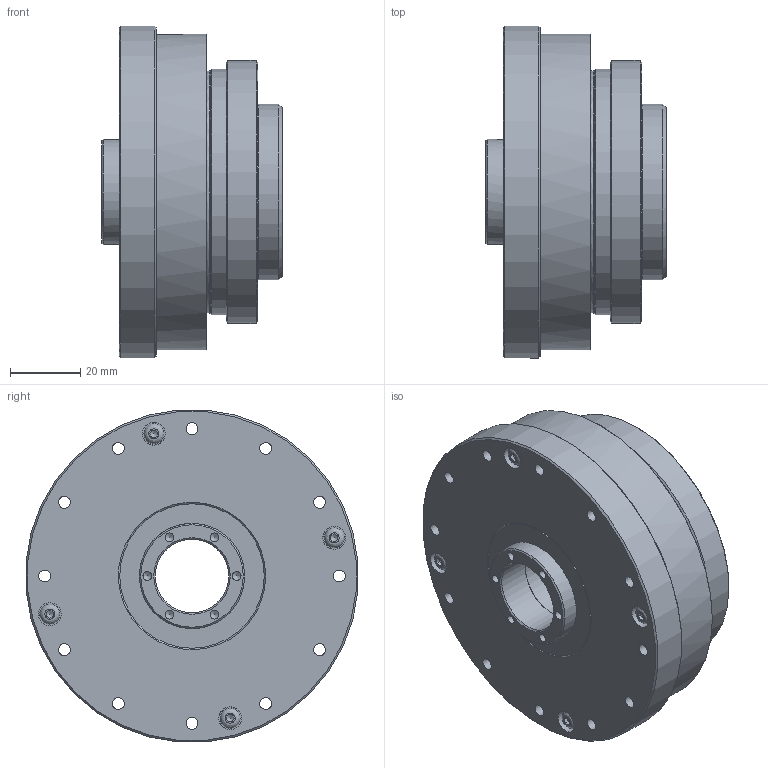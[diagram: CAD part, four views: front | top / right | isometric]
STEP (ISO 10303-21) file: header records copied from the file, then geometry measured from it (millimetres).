
FILE_DESCRIPTION(/* description */ (''),/* implementation_level */ '2;1');
FILE_NAME(/* name */ '\\Hiwin.tw\dfs\TB00F\研發課二組\\X2\6A5F5BC67D1A\X0\\1.設計\01-DT\DT-圖面\2.\X2\7D4454085716\X0\\模型\DGH-AH\DGH-20-AH\DGH-20-XX-AH_v2.stp',/* time_stamp */ '2024-09-26T15:57:36+08:00',/* author */ ('chiayu.chen'),/* organization */ (''),/* preprocessor_version */ 'ST-DEVELOPER v15.2',/* originating_system */ 'Autodesk Inventor 2014',/* authorisation */ '');
FILE_SCHEMA (('AUTOMOTIVE_DESIGN { 1 0 10303 214 3 1 1 }'));
Length unit declared in the file: centimetre
Products named in the file (1): AK0003J1
Bounding box: 51.5 x 94.64 x 94.64 mm (x, y, z)
Volume: 219713.8 mm3; surface area: 40209.7 mm2
Topology: 1 solids, 17 shells, 442 faces, 994 edges, 658 vertices
Faces by surface type: cylinder 162, plane 154, cone 109, torus 13, bspline 4
Full cylindrical faces by diameter (mm): 2.459 x36, 3 x8, 3.4 x40, 3.5 x32, 5.5 x4, 5.7 x4, 6.5 x8, 21 x2, 21.5 x1, 30 x2, 41.2 x2, 50 x1, 69 x1, 70 x1, 75 x1, 78 x1, 90 x1, 95 x1
Entity records: 10062 total; most frequent: CARTESIAN_POINT 1787, DIRECTION 1770, ORIENTED_EDGE 1124, AXIS2_PLACEMENT_3D 837, EDGE_LOOP 824, EDGE_CURVE 562, VERTEX_POINT 494, FACE_BOUND 446
